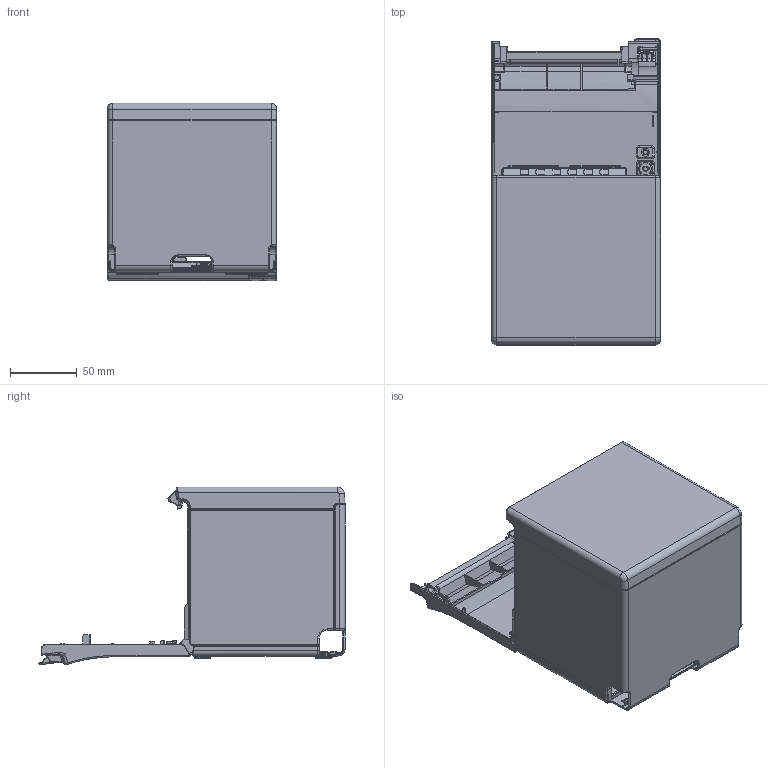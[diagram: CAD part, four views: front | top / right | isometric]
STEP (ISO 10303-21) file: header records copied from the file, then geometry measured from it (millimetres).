
FILE_DESCRIPTION((''),'2;1');
FILE_NAME('TM-M30II_FRONT_OPEN_SW','2025-01-23T11:43:55',('0092109'),(''),'CREO PARAMETRIC BY PTC INC, 2022281','CREO PARAMETRIC BY PTC INC, 2022281','');
FILE_SCHEMA(('AUTOMOTIVE_DESIGN { 1 0 10303 214 1 1 1 1 }'));
Products named in the file (1): TM-M30II_FRONT_OPEN_SW
Bounding box: 127 x 229.93 x 133.5 mm (x, y, z)
Surface area: 232544.6 mm2 (no closed solid volume)
Topology: 0 solids, 25 shells, 3080 faces, 8998 edges, 5848 vertices
Faces by surface type: plane 1299, cylinder 1186, torus 305, bspline 225, cone 51, sphere 13, extrusion 1
Entity records: 125757 total; most frequent: CARTESIAN_POINT 45485, ORIENTED_EDGE 16642, DIRECTION 16402, EDGE_CURVE 8998, VERTEX_POINT 5848, AXIS2_PLACEMENT_3D 5481, VECTOR 5440, LINE 5439
